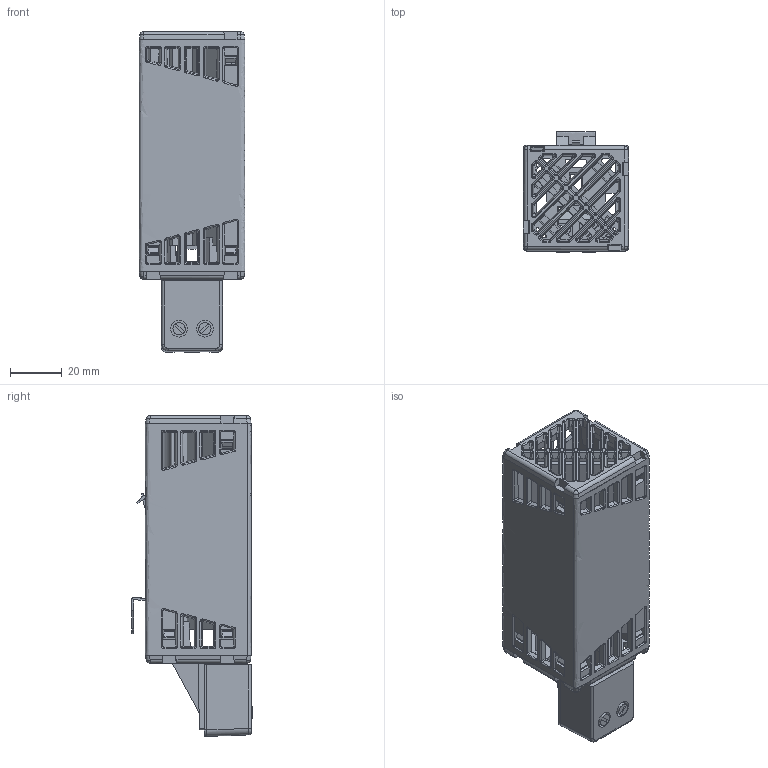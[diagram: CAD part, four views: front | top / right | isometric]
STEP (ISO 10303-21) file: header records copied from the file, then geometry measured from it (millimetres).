
FILE_DESCRIPTION(/* description */ ('Unknown'),/* implementation_level */ '2;1');
FILE_NAME(/* name */ '7H_51_0_230_0025',/* time_stamp */ '2016-11-03T11:27:46+01:00',/* author */ ('Unknown'),/* organization */ ('Unknown'),/* preprocessor_version */ 'ST-DEVELOPER v16',/* originating_system */ 'DEX',/* authorisation */ $);
FILE_SCHEMA (('AUTOMOTIVE_DESIGN {1 0 10303 214 3 1 1}'));
Products named in the file (1): STHT25-50
Bounding box: 41 x 46.74 x 124.4 mm (x, y, z)
Volume: 57135.6 mm3; surface area: 78295 mm2
Topology: 5 solids, 6 shells, 1628 faces, 4309 edges, 2668 vertices
Faces by surface type: plane 809, cylinder 546, bspline 259, sphere 12, cone 2
Full cylindrical faces by diameter (mm): 2.5 x1, 2.9 x1, 3.9 x2, 4.75 x2, 4.95 x1, 6.45 x2
Entity records: 65312 total; most frequent: CARTESIAN_POINT 18461, ORIENTED_EDGE 8577, DIRECTION 7339, EDGE_CURVE 4290, LINE 2761, VECTOR 2761, VERTEX_POINT 2660, AXIS2_PLACEMENT_3D 2289
